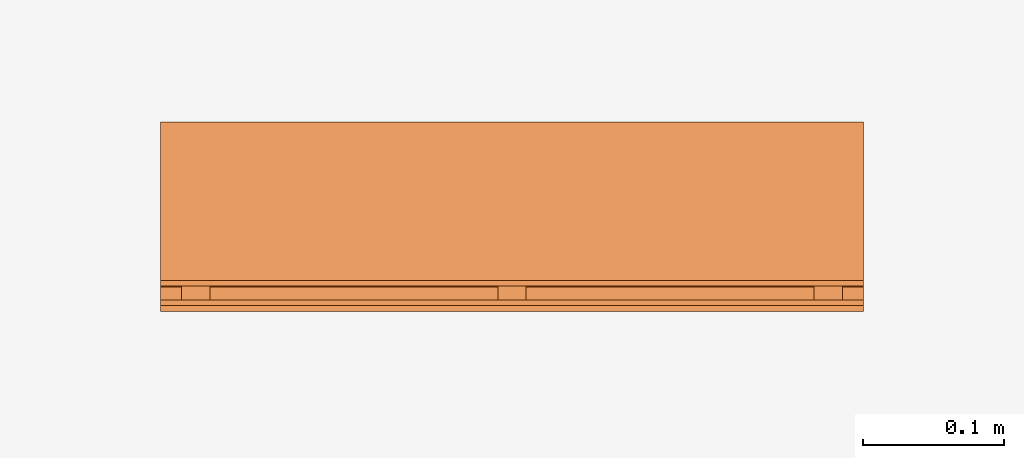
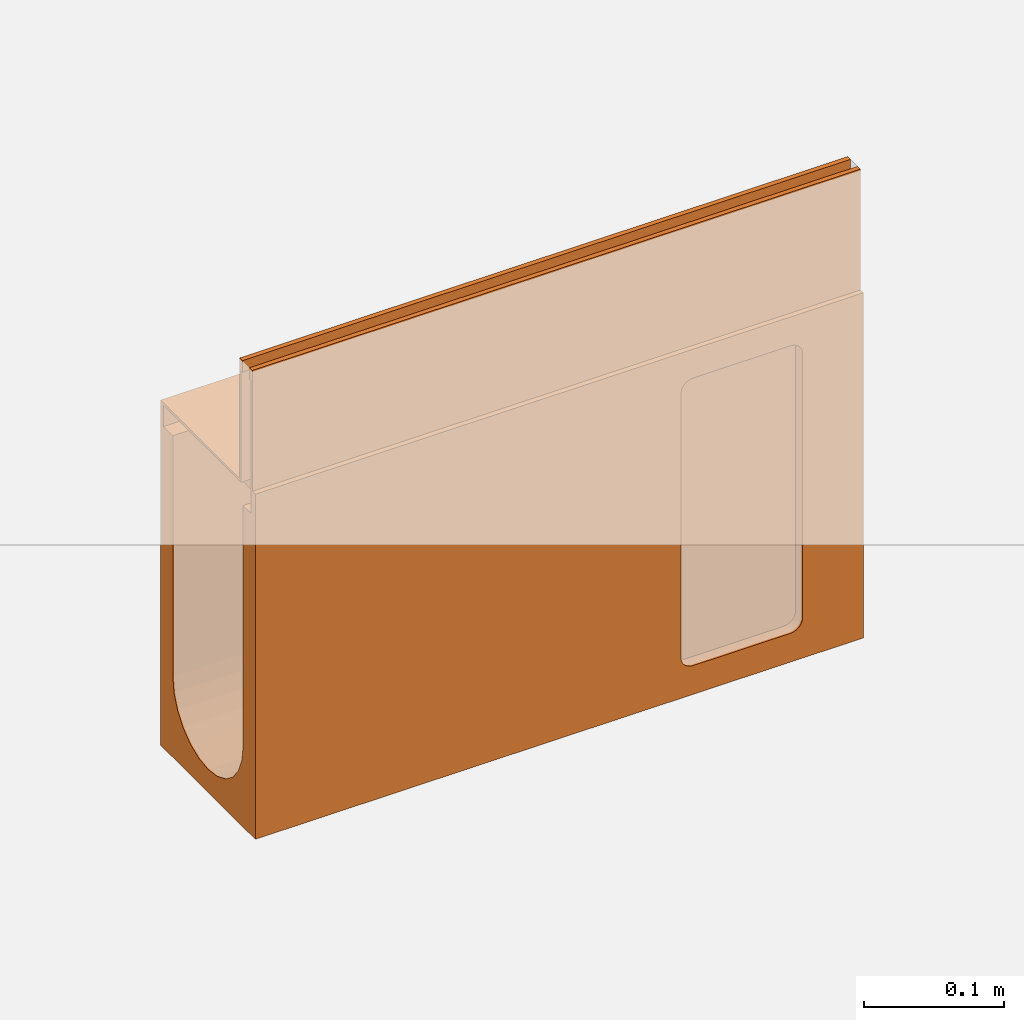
# One storey, part 2 of 2: 1 proxy.
"""IFC2X3 building model written with IfcOpenShell, lengths in millimetres."""

from ifc_helpers import new_model, entity, si_unit, converted_unit, direction, frame, origin, place, context, subcontext, project, spatial, faceted_brep, source, transform, mapped, material, material_list, element, save


model = new_model("IFC2X3")

# Units and contexts
model_context = context("Model", 3, precision=1e-06, world=origin(), true_north=direction((2.0, 6.12303176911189e-17, 1.0)))
context_of_model = context(None, 3, precision=1e-06, world=origin(), true_north=direction((2.0, 6.12303176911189e-17, 1.0)))
body_context = subcontext(model_context, "Body", "Model", "MODEL_VIEW")
ifc_project = project(units=[si_unit("LENGTHUNIT", "METRE", prefix="MILLI"), si_unit("AREAUNIT", "SQUARE_METRE", prefix="MILLI"), si_unit("VOLUMEUNIT", "CUBIC_METRE", prefix="MILLI"), converted_unit("PLANEANGLEUNIT", "DEGREE", entity("IfcRatioMeasure", 0.0174532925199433), si_unit("PLANEANGLEUNIT", "RADIAN"), dimensions=[0, 0, 0, 0, 0, 0, 0]), si_unit("TIMEUNIT", "SECOND")], contexts=[model_context, context_of_model])

# Site, building, storey
site_placement = place(None, origin())
site = spatial("IfcSite", under=ifc_project, at=site_placement, Name="Default", CompositionType="ELEMENT")
building_placement = place(site_placement, origin())
building = spatial("IfcBuilding", under=site, at=building_placement, CompositionType="ELEMENT")
storey_placement = place(building_placement, origin())
storey = spatial("IfcBuildingStorey", under=building, at=storey_placement, Name="Level 1", CompositionType="ELEMENT", Elevation=0.0)

# Proxy
ifc_material_1 = material(Name="Steel, Galvanized")
ifc_material_2 = material(Name="Vienite® Synthetic Resin Concrete")
ifc_material_list = material_list([ifc_material_1, ifc_material_2])
shared_shape = source(origin(), body_context, "Body", "Brep", [
    faceted_brep([(63.249999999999, 15.0, -107.0), (63.249999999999, 17.0, -109.0), (63.249999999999, 33.0, -109.0), (63.249999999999, 35.0, -107.0), (63.249999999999, 17.0, -123.499999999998), (63.249999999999, 15.0, -125.499999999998), (63.249999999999, 33.0, -123.499999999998), (63.249999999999, 35.0, -125.499999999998), (-61.250000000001, 15.0, -125.499999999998), (-61.250000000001, 17.0, -123.499999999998), (-61.250000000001, 33.0, -123.499999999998), (-61.250000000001, 35.0, -125.499999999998), (-61.250000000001, 17.0, -109.0), (-61.250000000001, 15.0, -107.0), (-61.250000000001, 33.0, -109.0), (-61.250000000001, 35.0, -107.0)], [[[0, 1, 2, 3]], [[4, 1, 0, 5]], [[3, 2, 6, 7]], [[6, 4, 5, 7]], [[8, 9, 10, 11]], [[12, 9, 8, 13]], [[11, 10, 14, 15]], [[14, 12, 13, 15]], [[5, 0, 13, 8]], [[7, 5, 8, 11]], [[3, 7, 11, 15]], [[0, 3, 15, 13]], [[1, 4, 9, 12]], [[14, 2, 1, 12]], [[6, 2, 14, 10]], [[9, 4, 6, 10]]]),
    faceted_brep([(-59.2500000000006, 500.0, 0.0), (-59.2500000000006, 500.0, -10.0), (-61.2500000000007, 500.0, -10.0), (-63.2500000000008, 500.0, 0.0), (-63.2500000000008, 500.0, -105.0), (-61.2500000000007, 500.0, -125.499999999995), (-63.2500000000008, 500.0, -125.499999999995), (-61.2500000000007, 0.0, -10.0), (-63.2500000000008, 0.0, 0.0), (-63.2500000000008, 0.0, -125.499999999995), (-61.2500000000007, 0.0, -125.499999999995), (-59.2500000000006, 0.0, 0.0), (-59.2500000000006, 0.0, -10.0)], [[[0, 1, 2, 3]], [[4, 2, 5, 6]], [[3, 2, 4]], [[7, 8, 9, 10]], [[11, 8, 7, 12]], [[5, 10, 9, 6]], [[2, 7, 10, 5]], [[1, 12, 7, 2]], [[0, 11, 12, 1]], [[3, 8, 11, 0]], [[4, 9, 8, 3]], [[4, 6, 9]]]),
    faceted_brep([(-47.2500000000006, 0.0, -10.0), (-47.2500000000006, 0.0, -107.0), (-45.2500000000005, 0.0, -105.0), (-45.2500000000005, 0.0, 0.0), (-49.2500000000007, 0.0, 0.0), (-49.2500000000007, 0.0, -10.0), (63.2499999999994, 0.0, -107.0), (63.2499999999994, 0.0, -105.0), (-47.2500000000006, 500.0, -10.0), (-49.2500000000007, 500.0, -10.0), (-47.2500000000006, 500.0, -107.0), (63.2499999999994, 500.0, -107.0), (63.2499999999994, 500.0, -105.0), (-45.2500000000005, 500.0, -105.0), (-45.2500000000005, 500.0, 0.0), (-49.2500000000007, 500.0, 0.0)], [[[0, 1, 2, 3]], [[4, 5, 0, 3]], [[6, 7, 2, 1]], [[8, 0, 5, 9]], [[10, 1, 0, 8]], [[11, 6, 1, 10]], [[12, 7, 6, 11]], [[13, 2, 7, 12]], [[14, 3, 2, 13]], [[15, 4, 3, 14]], [[9, 5, 4, 15]], [[8, 14, 13, 10]], [[13, 12, 11, 10]], [[8, 9, 15, 14]]]),
    faceted_brep([(63.2499999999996, 465.0, -107.0), (63.2499999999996, 467.0, -109.0), (63.2499999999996, 483.0, -109.0), (63.2499999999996, 485.0, -107.0), (63.2499999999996, 467.0, -123.499999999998), (63.2499999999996, 465.0, -125.499999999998), (63.2499999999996, 483.0, -123.499999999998), (63.2499999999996, 485.0, -125.499999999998), (-61.2500000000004, 465.0, -125.499999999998), (-61.2500000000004, 467.0, -123.499999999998), (-61.2500000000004, 483.0, -123.499999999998), (-61.2500000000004, 485.0, -125.499999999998), (-61.2500000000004, 467.0, -109.0), (-61.2500000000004, 465.0, -107.0), (-61.2500000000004, 483.0, -109.0), (-61.2500000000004, 485.0, -107.0)], [[[0, 1, 2, 3]], [[4, 1, 0, 5]], [[3, 2, 6, 7]], [[6, 4, 5, 7]], [[8, 9, 10, 11]], [[12, 9, 8, 13]], [[11, 10, 14, 15]], [[14, 12, 13, 15]], [[5, 0, 13, 8]], [[7, 5, 8, 11]], [[3, 7, 11, 15]], [[0, 3, 15, 13]], [[1, 4, 9, 12]], [[2, 1, 12, 14]], [[6, 2, 14, 10]], [[4, 6, 10, 9]]]),
    faceted_brep([(63.2499999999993, 240.0, -107.0), (63.2499999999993, 242.0, -109.0), (63.2499999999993, 258.0, -109.0), (63.2499999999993, 260.0, -107.0), (63.2499999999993, 242.0, -123.499999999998), (63.2499999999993, 240.0, -125.499999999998), (63.2499999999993, 258.0, -123.499999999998), (63.2499999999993, 260.0, -125.499999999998), (-61.2500000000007, 240.0, -125.499999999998), (-61.2500000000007, 242.0, -123.499999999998), (-61.2500000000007, 258.0, -123.499999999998), (-61.2500000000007, 260.0, -125.499999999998), (-61.2500000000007, 242.0, -109.0), (-61.2500000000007, 240.0, -107.0), (-61.2500000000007, 258.0, -109.0), (-61.2500000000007, 260.0, -107.0)], [[[0, 1, 2, 3]], [[4, 1, 0, 5]], [[3, 2, 6, 7]], [[6, 4, 5, 7]], [[8, 9, 10, 11]], [[12, 9, 8, 13]], [[11, 10, 14, 15]], [[14, 12, 13, 15]], [[5, 0, 13, 8]], [[7, 5, 8, 11]], [[3, 7, 11, 15]], [[0, 3, 15, 13]], [[1, 4, 9, 12]], [[2, 1, 12, 14]], [[6, 2, 14, 10]], [[4, 6, 10, 9]]]),
    faceted_brep([(63.2499999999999, 500.0, -125.500000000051), (63.2499999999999, 500.0, -105.0), (67.4999999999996, 500.0, -105.0), (67.5, 500.0, -405.0), (50.0, 500.0, -335.0), (50.0, 500.0, -125.500000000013), (-67.5000000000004, 500.0, -105.0), (-63.2500000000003, 500.0, -105.0), (-63.2500000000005, 500.0, -125.500000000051), (-67.5000000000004, 500.0, -405.0), (-50.0, 500.0, -125.500000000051), (-50.0, 500.0, -335.0), (48.2962913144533, 500.0, -347.940952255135), (35.3553390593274, 500.0, -370.355339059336), (43.3012701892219, 500.0, -360.0), (25.0, 500.0, -378.301270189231), (0.0, 500.0, -385.0), (12.9409522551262, 500.0, -383.296291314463), (-43.3012701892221, 500.0, -360.0), (-35.3553390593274, 500.0, -370.355339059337), (-48.2962913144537, 500.0, -347.940952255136), (-25.0, 500.0, -378.301270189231), (-12.940952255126, 500.0, -383.296291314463), (67.5, 0.0, -405.0), (12.9409522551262, 0.0, -383.296291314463), (0.0, 0.0, -385.0), (25.0, 0.0, -378.301270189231), (35.3553390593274, 0.0, -370.355339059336), (43.3012701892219, 0.0, -360.0), (48.2962913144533, 0.0, -347.940952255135), (-12.940952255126, 0.0, -383.296291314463), (-67.5000000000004, 0.0, -405.0), (-25.0, 0.0, -378.301270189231), (-35.3553390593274, 0.0, -370.355339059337), (-43.3012701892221, 0.0, -360.0), (-48.2962913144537, 0.0, -347.940952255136), (50.0, 0.0, -335.0), (63.2499999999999, 0.0, -125.500000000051), (50.0, 0.0, -125.500000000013), (67.4999999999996, 0.0, -105.0), (63.2499999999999, 0.0, -105.0), (-50.0, 0.0, -335.0), (-50.0, 0.0, -125.500000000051), (-63.2500000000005, 0.0, -125.500000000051), (-63.2500000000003, 0.0, -105.0), (-67.5000000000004, 0.0, -105.0), (-67.5000000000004, 51.3397459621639, -135.0), (-67.5000000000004, 50.3407417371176, -137.411809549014), (-67.5000000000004, 52.9289321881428, -132.928932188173), (-67.5000000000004, 50.0, -140.0), (-67.5000000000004, 50.0, -370.0), (-67.5000000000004, 60.0, -130.0), (-67.5000000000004, 57.4118095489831, -130.340741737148), (-67.5000000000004, 55.0, -131.339745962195), (-67.5000000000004, 140.0, -130.0), (-67.5000000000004, 50.3407417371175, -372.588190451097), (-67.5000000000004, 51.3397459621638, -375.0), (-67.5000000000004, 52.9289321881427, -377.071067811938), (-67.5000000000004, 55.0, -378.660254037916), (-67.5000000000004, 57.4118095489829, -379.659258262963), (-67.5000000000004, 60.0, -380.0), (-67.5000000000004, 140.0, -380.0), (-67.5000000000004, 142.588190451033, -130.340741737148), (-67.5000000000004, 147.071067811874, -132.928932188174), (-67.5000000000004, 145.0, -131.339745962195), (-67.5000000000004, 148.660254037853, -135.0), (-67.5000000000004, 149.659258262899, -137.411809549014), (-67.5000000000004, 150.0, -140.0), (-67.5000000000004, 145.0, -378.660254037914), (-67.5000000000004, 147.071067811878, -377.071067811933), (-67.5000000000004, 142.588190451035, -379.659258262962), (-67.5000000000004, 149.659258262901, -372.588190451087), (-67.5000000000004, 150.0, -370.0), (-67.5000000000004, 148.660254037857, -375.0), (-14.2350474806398, 46.8740795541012, -405.0), (0.0, 45.0, -405.0), (-27.5000000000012, 52.3686027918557, -405.0), (-53.1259204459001, 85.764952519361, -405.0), (-47.6313972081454, 72.4999999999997, -405.0), (-38.8908729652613, 61.1091270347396, -405.0), (-55.0, 100.0, -405.0), (14.2350474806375, 46.8740795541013, -405.0), (27.4999999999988, 52.368602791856, -405.0), (38.8908729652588, 61.1091270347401, -405.0), (47.6313972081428, 72.5000000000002, -405.0), (53.1259204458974, 85.7649525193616, -405.0), (55.0, 100.0, -405.0), (-53.1259204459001, 114.235047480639, -405.0), (-47.6313972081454, 127.5, -405.0), (-38.8908729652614, 138.89087296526, -405.0), (-27.5000000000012, 147.631397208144, -405.0), (-14.2350474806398, 153.125920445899, -405.0), (0.0, 155.0, -405.0), (47.6313972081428, 127.5, -405.0), (38.8908729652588, 138.89087296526, -405.0), (53.1259204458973, 114.235047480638, -405.0), (14.2350474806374, 153.125920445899, -405.0), (27.4999999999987, 147.631397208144, -405.0), (67.5, 51.3397459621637, -375.0), (67.5, 50.3407417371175, -372.588190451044), (67.5, 52.9289321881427, -377.071067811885), (67.5, 50.0, -370.0), (67.4999999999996, 50.0, -140.0), (67.5, 60.0, -380.0), (67.5, 57.4118095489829, -379.65925826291), (67.5, 55.0, -378.660254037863), (67.5, 140.0, -380.0), (67.4999999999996, 50.3407417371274, -137.411809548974), (67.4999999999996, 51.3397459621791, -135.0), (67.4999999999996, 52.9289321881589, -132.928932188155), (67.4999999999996, 55.0, -131.339745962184), (67.4999999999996, 57.4118095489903, -130.340741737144), (67.4999999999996, 60.0, -130.0), (67.4999999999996, 140.0, -130.0), (67.5, 142.588190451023, -379.659258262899), (67.5, 147.071067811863, -377.071067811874), (67.5, 145.0, -378.660254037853), (67.5, 148.660254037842, -375.0), (67.5, 149.659258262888, -372.588190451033), (67.5, 150.0, -370.0), (67.4999999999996, 145.0, -131.339745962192), (67.4999999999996, 147.071067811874, -132.928932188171), (67.4999999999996, 142.588190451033, -130.340741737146), (67.4999999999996, 149.659258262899, -137.411809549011), (67.4999999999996, 150.0, -140.0), (67.4999999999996, 148.660254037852, -135.0), (57.4999999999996, 140.0, -380.0), (57.4999999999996, 149.659258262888, -372.588190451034), (57.4999999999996, 150.0, -370.0), (57.4999999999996, 50.0, -370.0), (57.4999999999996, 147.071067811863, -377.071067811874), (57.4999999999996, 148.660254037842, -375.0), (57.4999999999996, 142.588190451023, -379.659258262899), (57.4999999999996, 145.0, -378.660254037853), (57.4999999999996, 150.0, -140.0), (57.4999999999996, 50.0, -140.0), (57.4999999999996, 149.659258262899, -137.411809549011), (57.4999999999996, 148.660254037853, -135.0), (57.4999999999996, 147.071067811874, -132.928932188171), (57.4999999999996, 140.0, -130.0), (57.4999999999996, 145.0, -131.339745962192), (57.4999999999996, 142.588190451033, -130.340741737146), (57.4999999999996, 60.0, -130.0), (57.4999999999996, 55.0, -378.660254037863), (57.4999999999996, 57.4118095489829, -379.65925826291), (57.4999999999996, 60.0, -380.0), (57.4999999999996, 52.9289321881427, -377.071067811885), (57.4999999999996, 50.3407417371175, -372.588190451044), (57.4999999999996, 51.3397459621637, -375.0), (57.4999999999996, 57.411809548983, -130.340741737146), (57.4999999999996, 55.0, -131.339745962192), (57.4999999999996, 51.3397459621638, -135.0), (57.4999999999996, 50.3407417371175, -137.411809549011), (57.4999999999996, 52.9289321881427, -132.928932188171), (-57.5000000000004, 57.4118095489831, -130.340741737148), (-57.5000000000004, 60.0, -130.0), (-57.5000000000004, 52.9289321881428, -132.928932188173), (-57.5000000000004, 55.0, -131.339745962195), (-57.5000000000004, 50.0, -140.0), (-57.5000000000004, 50.3407417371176, -137.411809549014), (-57.5000000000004, 51.3397459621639, -135.0), (-57.5000000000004, 150.0, -140.0), (-57.5000000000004, 140.0, -130.0), (-57.5000000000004, 142.588190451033, -130.340741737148), (-57.5000000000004, 145.0, -131.339745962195), (-57.5000000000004, 149.659258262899, -137.411809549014), (-57.5000000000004, 147.071067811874, -132.928932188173), (-57.5000000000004, 148.660254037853, -135.0), (-57.5000000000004, 150.0, -370.0), (-57.5000000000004, 50.0, -370.0), (-57.5000000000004, 50.3407417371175, -372.588190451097), (-57.5000000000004, 57.4118095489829, -379.659258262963), (-57.5000000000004, 55.0, -378.660254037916), (-57.5000000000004, 52.9289321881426, -377.071067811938), (-57.5000000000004, 51.3397459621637, -375.0), (-57.5000000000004, 60.0, -380.0), (-57.5000000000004, 140.0, -380.0), (-57.5000000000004, 149.659258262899, -372.588190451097), (-57.5000000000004, 148.660254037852, -375.0), (-57.5000000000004, 145.0, -378.660254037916), (-57.5000000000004, 142.588190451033, -379.659258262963), (-57.5000000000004, 147.071067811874, -377.071067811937), (-27.5000000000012, 147.631397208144, -395.0), (-14.2350474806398, 153.125920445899, -395.0), (0.0, 155.0, -395.0), (14.2350474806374, 153.125920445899, -395.0), (-38.8908729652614, 138.89087296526, -395.0), (-47.6313972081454, 127.5, -395.0), (-55.0, 100.0, -395.0), (-53.1259204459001, 114.235047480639, -395.0), (47.6313972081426, 72.4999999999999, -395.0), (27.4999999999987, 147.631397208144, -395.0), (53.1259204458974, 114.235047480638, -395.0), (55.0, 100.0, -395.0), (47.6313972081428, 127.5, -395.0), (38.8908729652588, 138.89087296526, -395.0), (-47.6313972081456, 72.5, -395.0), (-27.5000000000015, 52.3686027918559, -395.0), (-38.8908729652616, 61.1091270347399, -395.0), (0.0, 45.0, -395.0), (-14.2350474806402, 46.8740795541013, -395.0), (38.8908729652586, 61.1091270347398, -395.0), (53.1259204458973, 85.7649525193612, -395.0), (27.4999999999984, 52.3686027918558, -395.0), (14.2350474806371, 46.8740795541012, -395.0), (-53.1259204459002, 85.7649525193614, -395.0)], [[[0, 1, 2, 3]], [[4, 5, 0, 3]], [[6, 7, 8, 9]], [[8, 10, 11, 9]], [[4, 3, 12]], [[13, 14, 3]], [[15, 13, 3]], [[16, 17, 3, 9]], [[3, 17, 15]], [[14, 12, 3]], [[18, 19, 9]], [[20, 18, 9]], [[21, 22, 9]], [[9, 22, 16]], [[21, 9, 19]], [[20, 9, 11]], [[23, 24, 25]], [[24, 23, 26]], [[27, 26, 23]], [[28, 27, 23]], [[23, 29, 28]], [[25, 30, 31, 23]], [[31, 30, 32]], [[33, 34, 31]], [[32, 33, 31]], [[31, 34, 35]], [[36, 29, 23]], [[37, 38, 36, 23]], [[39, 40, 37, 23]], [[41, 42, 43, 31]], [[35, 41, 31]], [[43, 44, 45, 31]], [[7, 44, 43, 8]], [[45, 44, 7, 6]], [[45, 46, 47]], [[46, 45, 48]], [[45, 47, 49, 50]], [[51, 52, 45]], [[53, 48, 45]], [[52, 53, 45]], [[54, 51, 45, 6]], [[50, 55, 31, 45]], [[31, 56, 57]], [[56, 31, 55]], [[57, 58, 31]], [[59, 60, 31]], [[58, 59, 31]], [[31, 60, 61]], [[62, 54, 6]], [[63, 64, 6]], [[62, 6, 64]], [[65, 6, 66]], [[6, 65, 63]], [[67, 66, 6, 9]], [[68, 69, 9]], [[61, 70, 9, 31]], [[68, 9, 70]], [[9, 71, 72, 67]], [[73, 9, 69]], [[9, 73, 71]], [[31, 74, 75, 23]], [[74, 31, 76]], [[77, 78, 31]], [[79, 76, 31]], [[78, 79, 31]], [[31, 80, 77]], [[23, 81, 82]], [[81, 23, 75]], [[23, 82, 83]], [[83, 84, 23]], [[85, 86, 23]], [[84, 85, 23]], [[23, 86, 3]], [[9, 87, 80, 31]], [[88, 87, 9]], [[89, 9, 90]], [[9, 89, 88]], [[91, 90, 9]], [[92, 91, 9, 3]], [[93, 94, 3]], [[95, 93, 3]], [[96, 92, 3]], [[97, 3, 94]], [[3, 97, 96]], [[95, 3, 86]], [[23, 98, 99]], [[98, 23, 100]], [[23, 99, 101, 102]], [[103, 104, 23]], [[105, 100, 23]], [[104, 105, 23]], [[106, 103, 23, 3]], [[102, 107, 39, 23]], [[39, 108, 109]], [[108, 39, 107]], [[109, 110, 39]], [[111, 112, 39]], [[110, 111, 39]], [[39, 112, 113]], [[114, 106, 3]], [[115, 116, 3]], [[114, 3, 116]], [[117, 3, 118]], [[3, 117, 115]], [[119, 118, 3, 2]], [[120, 121, 2]], [[113, 122, 2, 39]], [[120, 2, 122]], [[2, 123, 124, 119]], [[125, 2, 121]], [[2, 125, 123]], [[40, 39, 2, 1]], [[0, 37, 40, 1]], [[5, 38, 37, 0]], [[4, 36, 38, 5]], [[12, 29, 36, 4]], [[14, 28, 29, 12]], [[15, 26, 27, 13]], [[13, 27, 28, 14]], [[17, 24, 26, 15]], [[24, 17, 16, 25]], [[21, 32, 30, 22]], [[19, 33, 32, 21]], [[20, 35, 34, 18]], [[18, 34, 33, 19]], [[11, 41, 35, 20]], [[22, 30, 25, 16]], [[42, 41, 11, 10]], [[43, 42, 10, 8]], [[126, 127, 128, 129]], [[130, 131, 127, 126]], [[130, 126, 132, 133]], [[129, 128, 134, 135]], [[136, 137, 138, 134]], [[139, 138, 140, 141]], [[134, 138, 139, 142]], [[143, 144, 145, 146]], [[147, 148, 146, 129]], [[129, 146, 145, 126]], [[142, 149, 150, 135]], [[151, 152, 135, 153]], [[150, 153, 135]], [[142, 135, 134]], [[152, 107, 102, 135]], [[151, 108, 107, 152]], [[108, 151, 153, 109]], [[150, 110, 109, 153]], [[149, 111, 110, 150]], [[111, 149, 142, 112]], [[112, 142, 139, 113]], [[141, 122, 113, 139]], [[140, 120, 122, 141]], [[120, 140, 138, 121]], [[137, 125, 121, 138]], [[136, 123, 125, 137]], [[123, 136, 134, 124]], [[124, 134, 128, 119]], [[127, 118, 119, 128]], [[131, 117, 118, 127]], [[117, 131, 130, 115]], [[133, 116, 115, 130]], [[132, 114, 116, 133]], [[114, 132, 126, 106]], [[106, 126, 145, 103]], [[144, 104, 103, 145]], [[143, 105, 104, 144]], [[105, 143, 146, 100]], [[148, 98, 100, 146]], [[147, 99, 98, 148]], [[99, 147, 129, 101]], [[101, 129, 135, 102]], [[154, 155, 156, 157]], [[156, 158, 159, 160]], [[158, 156, 155, 161]], [[162, 163, 164, 165]], [[164, 166, 167, 165]], [[162, 165, 161, 155]], [[158, 161, 168, 169]], [[170, 169, 171, 172]], [[173, 174, 170, 172]], [[175, 171, 169, 176]], [[177, 178, 176, 168]], [[179, 180, 176, 178]], [[179, 178, 181]], [[176, 169, 168]], [[154, 52, 51, 155]], [[157, 53, 52, 154]], [[53, 157, 156, 48]], [[160, 46, 48, 156]], [[159, 47, 46, 160]], [[47, 159, 158, 49]], [[162, 155, 51, 54]], [[165, 66, 67, 161]], [[167, 65, 66, 165]], [[65, 167, 166, 63]], [[164, 64, 63, 166]], [[163, 62, 64, 164]], [[62, 163, 162, 54]], [[72, 168, 161, 67]], [[180, 70, 61, 176]], [[179, 68, 70, 180]], [[68, 179, 181, 69]], [[178, 73, 69, 181]], [[177, 71, 73, 178]], [[71, 177, 168, 72]], [[60, 175, 176, 61]], [[170, 55, 50, 169]], [[174, 56, 55, 170]], [[56, 174, 173, 57]], [[172, 58, 57, 173]], [[171, 59, 58, 172]], [[59, 171, 175, 60]], [[158, 169, 50, 49]], [[182, 183, 184, 185]], [[186, 182, 185, 187]], [[188, 189, 187, 190]], [[190, 187, 185, 191]], [[192, 193, 191, 194]], [[195, 194, 191]], [[196, 188, 190, 197]], [[198, 196, 197]], [[199, 200, 197, 201]], [[193, 202, 190, 191]], [[199, 201, 203, 204]], [[197, 190, 201]], [[205, 188, 196]], [[192, 95, 86, 193]], [[194, 93, 95, 192]], [[191, 97, 94, 195]], [[195, 94, 93, 194]], [[185, 96, 97, 191]], [[96, 185, 184, 92]], [[183, 91, 92, 184]], [[182, 90, 91, 183]], [[187, 88, 89, 186]], [[186, 89, 90, 182]], [[189, 87, 88, 187]], [[87, 189, 188, 80]], [[205, 77, 80, 188]], [[196, 78, 77, 205]], [[197, 76, 79, 198]], [[198, 79, 78, 196]], [[200, 74, 76, 197]], [[74, 200, 199, 75]], [[204, 81, 75, 199]], [[203, 82, 81, 204]], [[190, 84, 83, 201]], [[201, 83, 82, 203]], [[202, 85, 84, 190]], [[85, 202, 193, 86]]]),
])
proxy_placement = place(storey_placement, frame((143.656586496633, 99.9218925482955, 0.0), z_axis=(0.0, 0.0, 1.0), x_axis=(0.0, 1.0, 0.0)))
element("IfcBuildingElementProxy", 1, at=proxy_placement, inside=storey, material=ifc_material_list, Name="Civil-Drainage-Channel-ACO-MultiDrain-M100D-Brickslot-Channel-System:23301 - No 30.1J Constant Depth Channel - 500mm LG - Invert Depth 280mm:23301 - No 30.1J Constant Depth Channel - 500mm LG - Invert Depth 280mm", ObjectType="23301 - No 30.1J Constant Depth Channel - 500mm LG - Invert Depth 280mm", CompositionType="ELEMENT", context=body_context, shape_type="MappedRepresentation", body=[
    mapped(shared_shape, transform((0.0, 0.0, 0.0), scale=1.0)),
])

save(model, "model.ifc")
